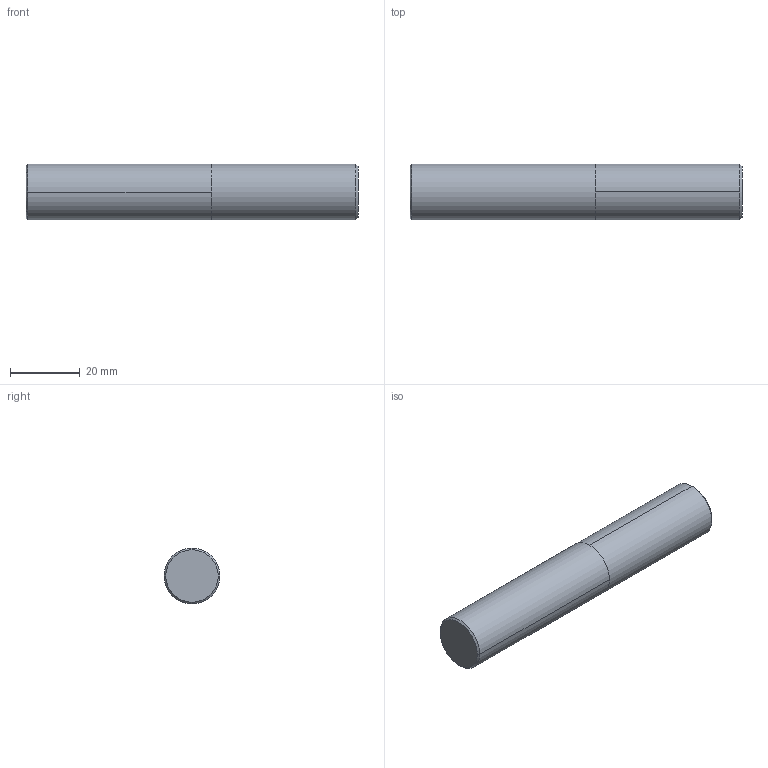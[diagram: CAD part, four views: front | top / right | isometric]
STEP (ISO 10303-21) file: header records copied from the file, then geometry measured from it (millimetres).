
FILE_DESCRIPTION (( 'STEP AP203' ), '1' );
FILE_NAME ('03-1763.STEP', '2021-09-10T07:22:13', ( 'USER' ), ( 'Hewlett-Packard Company' ), 'SwSTEP 2.0', 'SolidWorks 2014', '' );
FILE_SCHEMA (( 'CONFIG_CONTROL_DESIGN' ));
Length unit declared in the file: millimetre
Products named in the file (1): 03-1763
Bounding box: 95 x 16 x 16 mm (x, y, z)
Volume: 19085.9 mm3; surface area: 5546.3 mm2
Topology: 2 solids, 2 shells, 12 faces, 20 edges, 12 vertices
Faces by surface type: cylinder 4, cone 4, plane 4
Entity records: 359 total; most frequent: DIRECTION 58, CARTESIAN_POINT 45, ORIENTED_EDGE 40, AXIS2_PLACEMENT_3D 25, EDGE_CURVE 20, EDGE_LOOP 12, VERTEX_POINT 12, FACE_OUTER_BOUND 12
